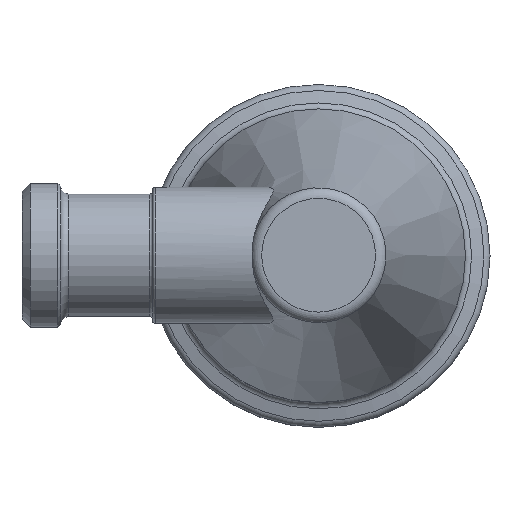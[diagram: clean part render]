
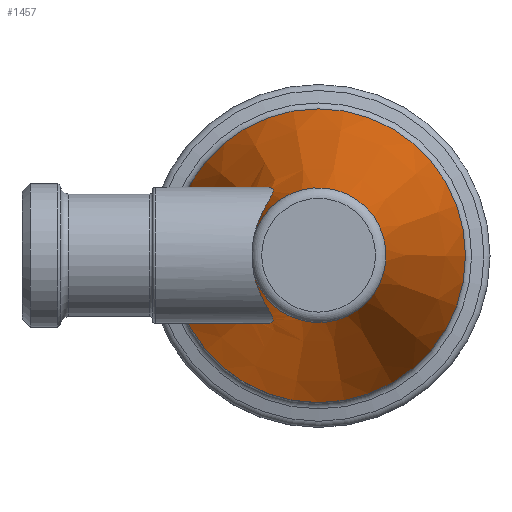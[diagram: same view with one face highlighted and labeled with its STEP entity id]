
A CAD part, top view. The second image highlights one B-rep face of the part: STEP entity #1457.
In plain terms, the highlighted conical face has half-angle 14.704 degrees and reference radius 19.696 mm.
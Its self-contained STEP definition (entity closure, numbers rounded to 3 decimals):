
#36=CONICAL_SURFACE('',#1618,19.696,0.257);
#70=CIRCLE('',#1553,12.392);
#113=CIRCLE('',#1616,27.);
#114=CIRCLE('',#1617,27.);
#187=(
BOUNDED_CURVE()
B_SPLINE_CURVE(2,(#2911,#2912,#2913),.UNSPECIFIED.,.F.,.F.)
B_SPLINE_CURVE_WITH_KNOTS((3,3),(0.04,3.249),
 .UNSPECIFIED.)
CURVE()
GEOMETRIC_REPRESENTATION_ITEM()
RATIONAL_B_SPLINE_CURVE((1.,1.017,1.))
REPRESENTATION_ITEM('')
);
#188=(
BOUNDED_CURVE()
B_SPLINE_CURVE(2,(#2915,#2916,#2917),.UNSPECIFIED.,.F.,.F.)
B_SPLINE_CURVE_WITH_KNOTS((3,3),(0.368,0.627),
 .UNSPECIFIED.)
CURVE()
GEOMETRIC_REPRESENTATION_ITEM()
RATIONAL_B_SPLINE_CURVE((1.004,1.004,1.002))
REPRESENTATION_ITEM('')
);
#189=(
BOUNDED_CURVE()
B_SPLINE_CURVE(2,(#2920,#2921,#2922),.UNSPECIFIED.,.F.,.F.)
B_SPLINE_CURVE_WITH_KNOTS((3,3),(0.11,0.368),
 .UNSPECIFIED.)
CURVE()
GEOMETRIC_REPRESENTATION_ITEM()
RATIONAL_B_SPLINE_CURVE((1.002,1.004,1.004))
REPRESENTATION_ITEM('')
);
#190=(
BOUNDED_CURVE()
B_SPLINE_CURVE(2,(#2923,#2924,#2925),.UNSPECIFIED.,.F.,.F.)
B_SPLINE_CURVE_WITH_KNOTS((3,3),(0.,3.209),.UNSPECIFIED.)
CURVE()
GEOMETRIC_REPRESENTATION_ITEM()
RATIONAL_B_SPLINE_CURVE((1.,1.017,1.))
REPRESENTATION_ITEM('')
);
#262=FACE_OUTER_BOUND('',#347,.T.);
#347=EDGE_LOOP('',(#1179,#1180,#1181,#1182,#1183,#1184,#1185,#1186,#1187,
#1188,#1189));
#426=LINE('',#2918,#482);
#482=VECTOR('',#1966,19.696);
#536=B_SPLINE_CURVE_WITH_KNOTS('',3,(#2860,#2861,#2862,#2863,#2864,#2865,
#2866,#2867,#2868,#2869,#2870,#2871,#2872,#2873,#2874,#2875,#2876,#2877,
#2878,#2879,#2880,#2881,#2882,#2883),.UNSPECIFIED.,.F.,.F.,(4,2,2,2,2,2,
2,2,2,2,2,4),(-6.242,-6.156,-5.727,-5.31,
-5.101,-4.892,-4.575,-4.259,
-3.626,-3.036,-2.741,-2.698),
 .UNSPECIFIED.);
#537=B_SPLINE_CURVE_WITH_KNOTS('',3,(#2885,#2886,#2887,#2888,#2889,#2890,
#2891,#2892,#2893,#2894,#2895,#2896,#2897,#2898,#2899,#2900,#2901,#2902,
#2903,#2904,#2905,#2906,#2907,#2908,#2909),.UNSPECIFIED.,.F.,.F.,(4,2,2,
2,2,2,3,2,2,2,2,4),(-2.193,-2.151,-1.856,
-1.266,-0.633,-0.317,0.,0.209,
0.418,0.835,1.264,1.35),
 .UNSPECIFIED.);
#594=VERTEX_POINT('',#2721);
#595=VERTEX_POINT('',#2730);
#634=VERTEX_POINT('',#2853);
#635=VERTEX_POINT('',#2854);
#636=VERTEX_POINT('',#2859);
#637=VERTEX_POINT('',#2884);
#638=VERTEX_POINT('',#2910);
#639=VERTEX_POINT('',#2914);
#640=VERTEX_POINT('',#2919);
#779=EDGE_CURVE('',#594,#595,#70,.T.);
#834=EDGE_CURVE('',#634,#635,#113,.T.);
#835=EDGE_CURVE('',#635,#634,#114,.T.);
#837=EDGE_CURVE('',#595,#636,#536,.T.);
#838=EDGE_CURVE('',#637,#594,#537,.T.);
#839=EDGE_CURVE('',#638,#637,#187,.T.);
#840=EDGE_CURVE('',#639,#638,#188,.T.);
#841=EDGE_CURVE('',#639,#635,#426,.T.);
#842=EDGE_CURVE('',#640,#639,#189,.T.);
#843=EDGE_CURVE('',#636,#640,#190,.T.);
#1179=ORIENTED_EDGE('',*,*,#837,.F.);
#1180=ORIENTED_EDGE('',*,*,#779,.F.);
#1181=ORIENTED_EDGE('',*,*,#838,.F.);
#1182=ORIENTED_EDGE('',*,*,#839,.F.);
#1183=ORIENTED_EDGE('',*,*,#840,.F.);
#1184=ORIENTED_EDGE('',*,*,#841,.T.);
#1185=ORIENTED_EDGE('',*,*,#835,.T.);
#1186=ORIENTED_EDGE('',*,*,#834,.T.);
#1187=ORIENTED_EDGE('',*,*,#841,.F.);
#1188=ORIENTED_EDGE('',*,*,#842,.F.);
#1189=ORIENTED_EDGE('',*,*,#843,.F.);
#1457=ADVANCED_FACE('',(#262),#36,.T.);
#1553=AXIS2_PLACEMENT_3D('',#2731,#1822,#1823);
#1616=AXIS2_PLACEMENT_3D('',#2855,#1959,#1960);
#1617=AXIS2_PLACEMENT_3D('',#2856,#1961,#1962);
#1618=AXIS2_PLACEMENT_3D('',#2858,#1964,#1965);
#1822=DIRECTION('center_axis',(0.,0.,1.));
#1823=DIRECTION('ref_axis',(1.,0.,0.));
#1959=DIRECTION('center_axis',(0.,0.,1.));
#1960=DIRECTION('ref_axis',(1.,0.,0.));
#1961=DIRECTION('center_axis',(0.,0.,1.));
#1962=DIRECTION('ref_axis',(1.,0.,0.));
#1964=DIRECTION('center_axis',(0.,0.,-1.));
#1965=DIRECTION('ref_axis',(1.,0.,0.));
#1966=DIRECTION('',(-0.254,0.,-0.967));
#2721=CARTESIAN_POINT('',(-11.895,-3.474,96.508));
#2730=CARTESIAN_POINT('',(-11.895,3.474,96.508));
#2731=CARTESIAN_POINT('Origin',(0.,0.,96.508));
#2853=CARTESIAN_POINT('',(27.,0.,40.841));
#2854=CARTESIAN_POINT('',(-27.,0.,40.841));
#2855=CARTESIAN_POINT('Origin',(0.,0.,40.841));
#2856=CARTESIAN_POINT('Origin',(0.,0.,40.841));
#2858=CARTESIAN_POINT('Origin',(0.,0.,68.674));
#2859=CARTESIAN_POINT('',(-18.589,2.5,72.253));
#2860=CARTESIAN_POINT('Ctrl Pts',(-11.895,3.474,96.508));
#2861=CARTESIAN_POINT('Ctrl Pts',(-11.834,3.758,96.425));
#2862=CARTESIAN_POINT('Ctrl Pts',(-11.767,4.04,96.333));
#2863=CARTESIAN_POINT('Ctrl Pts',(-11.325,5.698,95.723));
#2864=CARTESIAN_POINT('Ctrl Pts',(-10.796,6.959,94.969));
#2865=CARTESIAN_POINT('Ctrl Pts',(-9.782,8.985,93.287));
#2866=CARTESIAN_POINT('Ctrl Pts',(-9.208,9.92,92.234));
#2867=CARTESIAN_POINT('Ctrl Pts',(-8.615,11.022,90.437));
#2868=CARTESIAN_POINT('Ctrl Pts',(-8.465,11.342,89.801));
#2869=CARTESIAN_POINT('Ctrl Pts',(-8.327,11.868,88.488));
#2870=CARTESIAN_POINT('Ctrl Pts',(-8.34,12.073,87.812));
#2871=CARTESIAN_POINT('Ctrl Pts',(-8.593,12.439,86.118));
#2872=CARTESIAN_POINT('Ctrl Pts',(-8.933,12.52,85.137));
#2873=CARTESIAN_POINT('Ctrl Pts',(-9.826,12.472,83.239));
#2874=CARTESIAN_POINT('Ctrl Pts',(-10.377,12.343,82.321));
#2875=CARTESIAN_POINT('Ctrl Pts',(-12.16,11.67,79.662));
#2876=CARTESIAN_POINT('Ctrl Pts',(-13.507,10.832,78.019));
#2877=CARTESIAN_POINT('Ctrl Pts',(-15.756,8.697,75.373));
#2878=CARTESIAN_POINT('Ctrl Pts',(-16.836,7.287,74.171));
#2879=CARTESIAN_POINT('Ctrl Pts',(-17.988,4.764,72.905));
#2880=CARTESIAN_POINT('Ctrl Pts',(-18.297,3.856,72.57));
#2881=CARTESIAN_POINT('Ctrl Pts',(-18.535,2.775,72.311));
#2882=CARTESIAN_POINT('Ctrl Pts',(-18.564,2.638,72.281));
#2883=CARTESIAN_POINT('Ctrl Pts',(-18.589,2.5,72.253));
#2884=CARTESIAN_POINT('',(-18.589,-2.5,72.253));
#2885=CARTESIAN_POINT('Ctrl Pts',(-18.589,-2.5,72.253));
#2886=CARTESIAN_POINT('Ctrl Pts',(-18.564,-2.638,72.281));
#2887=CARTESIAN_POINT('Ctrl Pts',(-18.535,-2.775,72.311));
#2888=CARTESIAN_POINT('Ctrl Pts',(-18.297,-3.856,72.57));
#2889=CARTESIAN_POINT('Ctrl Pts',(-17.988,-4.764,72.905));
#2890=CARTESIAN_POINT('Ctrl Pts',(-16.836,-7.287,74.171));
#2891=CARTESIAN_POINT('Ctrl Pts',(-15.756,-8.697,75.373));
#2892=CARTESIAN_POINT('Ctrl Pts',(-13.507,-10.832,78.019));
#2893=CARTESIAN_POINT('Ctrl Pts',(-12.16,-11.67,79.662));
#2894=CARTESIAN_POINT('Ctrl Pts',(-10.377,-12.343,82.321));
#2895=CARTESIAN_POINT('Ctrl Pts',(-9.826,-12.472,83.239));
#2896=CARTESIAN_POINT('Ctrl Pts',(-8.933,-12.52,85.137));
#2897=CARTESIAN_POINT('Ctrl Pts',(-8.593,-12.439,86.118));
#2898=CARTESIAN_POINT('Ctrl Pts',(-8.441,-12.218,87.138));
#2899=CARTESIAN_POINT('Ctrl Pts',(-8.34,-12.073,87.812));
#2900=CARTESIAN_POINT('Ctrl Pts',(-8.327,-11.868,88.488));
#2901=CARTESIAN_POINT('Ctrl Pts',(-8.465,-11.342,89.801));
#2902=CARTESIAN_POINT('Ctrl Pts',(-8.615,-11.022,90.437));
#2903=CARTESIAN_POINT('Ctrl Pts',(-9.208,-9.92,92.234));
#2904=CARTESIAN_POINT('Ctrl Pts',(-9.782,-8.985,93.287));
#2905=CARTESIAN_POINT('Ctrl Pts',(-10.796,-6.959,94.969));
#2906=CARTESIAN_POINT('Ctrl Pts',(-11.325,-5.698,95.723));
#2907=CARTESIAN_POINT('Ctrl Pts',(-11.767,-4.04,96.333));
#2908=CARTESIAN_POINT('Ctrl Pts',(-11.834,-3.758,96.425));
#2909=CARTESIAN_POINT('Ctrl Pts',(-11.895,-3.474,96.508));
#2910=CARTESIAN_POINT('',(-26.763,-2.5,41.3));
#2911=CARTESIAN_POINT('Ctrl Pts',(-26.763,-2.5,41.3));
#2912=CARTESIAN_POINT('Ctrl Pts',(-21.949,-2.5,59.566));
#2913=CARTESIAN_POINT('Ctrl Pts',(-18.589,-2.5,72.253));
#2914=CARTESIAN_POINT('',(-26.763,0.,41.744));
#2915=CARTESIAN_POINT('Ctrl Pts',(-26.763,0.,
41.744));
#2916=CARTESIAN_POINT('Ctrl Pts',(-26.763,-1.247,41.744));
#2917=CARTESIAN_POINT('Ctrl Pts',(-26.763,-2.5,41.3));
#2918=CARTESIAN_POINT('',(-19.696,0.,68.674));
#2919=CARTESIAN_POINT('',(-26.763,2.5,41.3));
#2920=CARTESIAN_POINT('Ctrl Pts',(-26.763,2.5,41.3));
#2921=CARTESIAN_POINT('Ctrl Pts',(-26.763,1.247,41.744));
#2922=CARTESIAN_POINT('Ctrl Pts',(-26.763,0.,
41.744));
#2923=CARTESIAN_POINT('Ctrl Pts',(-18.589,2.5,72.253));
#2924=CARTESIAN_POINT('Ctrl Pts',(-21.949,2.5,59.566));
#2925=CARTESIAN_POINT('Ctrl Pts',(-26.763,2.5,41.3));
